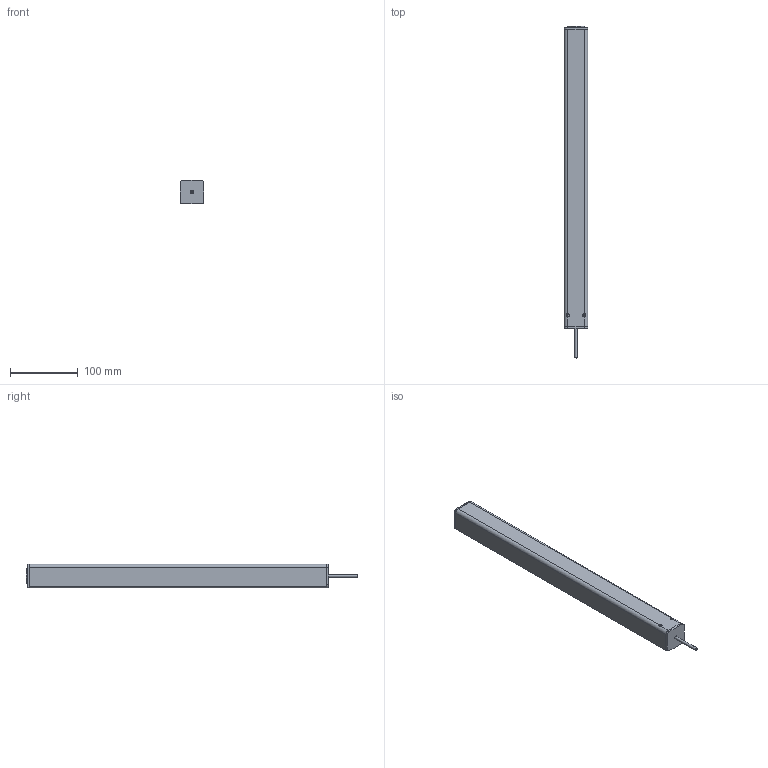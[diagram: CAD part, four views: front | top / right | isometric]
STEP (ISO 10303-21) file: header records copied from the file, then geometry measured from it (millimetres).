
FILE_DESCRIPTION(/* description */ ('Unknown'),/* implementation_level */ '2;1');
FILE_NAME(/* name */ '106.20003 Lineareinheit LA 1830_eingefahren',/* time_stamp */ '2017-08-24T11:40:10+02:00',/* author */ ('Unknown'),/* organization */ ('Unknown'),/* preprocessor_version */ 'ST-DEVELOPER v16.7',/* originating_system */ 'DEX',/* authorisation */ $);
FILE_SCHEMA (('AUTOMOTIVE_DESIGN {1 0 10303 214 3 1 1}'));
Products named in the file (9): 106.20003; 119.00003; 142.00014; 115.00008; 142.00011; 122.00018; 125.00051; 123.00003; 113.00002_70mm
Assembly tree (9 placements, depth 2):
  106.20003
    119.00003
    142.00014  x2
    115.00008
    142.00011
    122.00018
    125.00051
    123.00003
    113.00002_70mm
Bounding box: 35 x 490.5 x 35 mm (x, y, z)
Volume: 307049.6 mm3; surface area: 208144.9 mm2
Topology: 8 solids, 8 shells, 776 faces, 1818 edges, 1082 vertices
Faces by surface type: cylinder 273, bspline 224, plane 204, cone 36, torus 27, sphere 12
Full cylindrical faces by diameter (mm): 2.2 x1, 4 x7, 4.134 x4, 5 x1, 6.647 x1, 8.376 x1, 17.3 x1, 19 x1, 20.8 x3, 21 x1, 25 x1, 28.3 x1, 30.4 x1, 30.63 x1
Entity records: 74513 total; most frequent: CARTESIAN_POINT 58862, ORIENTED_EDGE 3422, DIRECTION 2541, EDGE_CURVE 1711, VERTEX_POINT 1037, AXIS2_PLACEMENT_3D 983, EDGE_LOOP 858, FACE_BOUND 858
